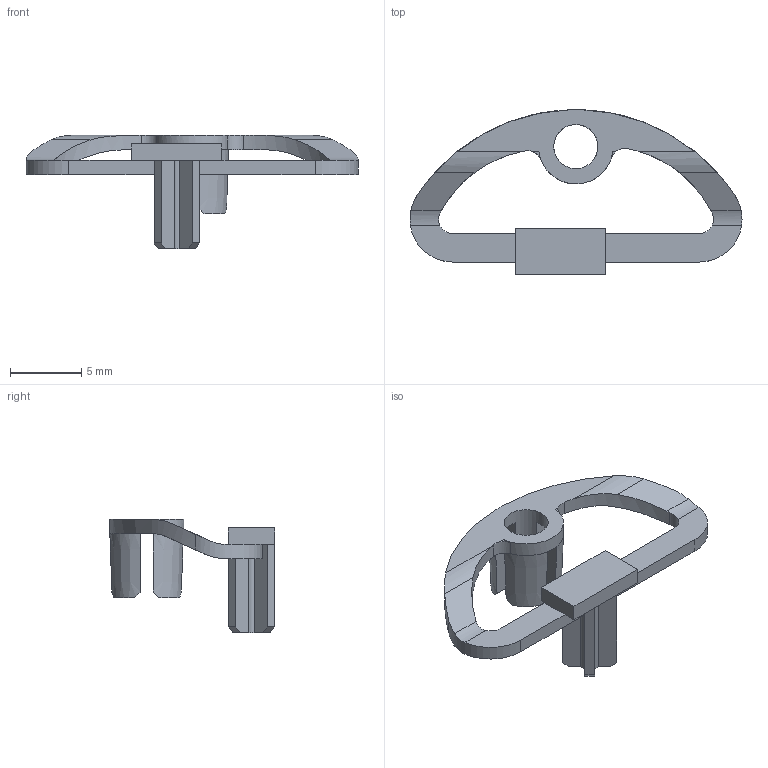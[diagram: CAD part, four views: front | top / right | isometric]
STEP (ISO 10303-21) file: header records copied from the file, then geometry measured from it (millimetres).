
FILE_DESCRIPTION(('FreeCAD Model'),'2;1');
FILE_NAME('Open CASCADE Shape Model','2025-03-08T16:25:41',('Author'),( ''),'Open CASCADE STEP processor 7.8','FreeCAD','Unknown');
FILE_SCHEMA(('AUTOMOTIVE_DESIGN { 1 0 10303 214 1 1 1 1 }'));
Length unit declared in the file: millimetre
Products named in the file (1): BatteryLatchTensionHolderV2Pins
Bounding box: 23.3 x 11.6 x 7.95 mm (x, y, z)
Volume: 199.3 mm3; surface area: 562.4 mm2
Topology: 1 solids, 1 shells, 90 faces, 276 edges, 185 vertices
Faces by surface type: plane 59, cylinder 27, cone 4
Full cylindrical faces by diameter (mm): 3.1 x1
Entity records: 7465 total; most frequent: CARTESIAN_POINT 2215, DIRECTION 937, ORIENTED_EDGE 552, PCURVE 552, DEFINITIONAL_REPRESENTATION 552, LINE 519, VECTOR 519, EDGE_CURVE 276
